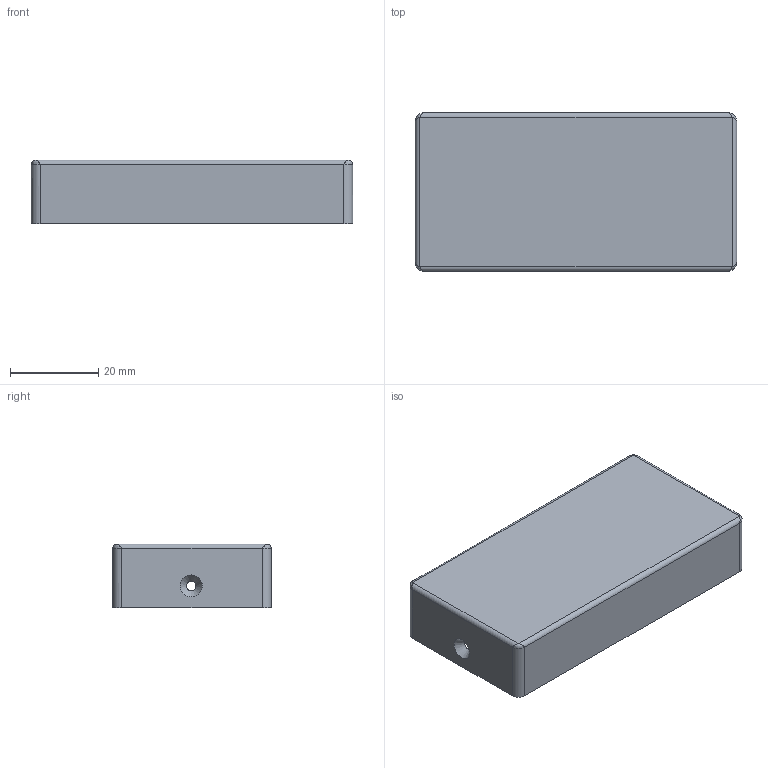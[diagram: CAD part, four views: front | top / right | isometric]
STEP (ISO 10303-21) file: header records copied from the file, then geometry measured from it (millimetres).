
FILE_DESCRIPTION(('STEP AP203'), '1');
FILE_NAME('çàêðûâàøêà õîëäåðà ïîä íåéëîíîâûå ñòðóíû', '', ('UNSPECIFIED'), ('UNSPECIFIED'), 'ASCON STEP Converter 1.3', 'ASCON Math Kernel', '');
FILE_SCHEMA(('CONFIG_CONTROL_DESIGN'));
Length unit declared in the file: millimetre
Bounding box: 73 x 36 x 14.5 mm (x, y, z)
Volume: 6297.4 mm3; surface area: 9195.3 mm2
Topology: 1 solids, 1 shells, 23 faces, 53 edges, 28 vertices
Faces by surface type: plane 9, cylinder 8, bspline 4, cone 2
Entity records: 1109 total; most frequent: CARTESIAN_POINT 423, ORIENTED_EDGE 94, DIRECTION 83, EDGE_CURVE 47, EDGE_LOOP 29, AXIS2_PLACEMENT_3D 28, VERTEX_POINT 28, LINE 27
